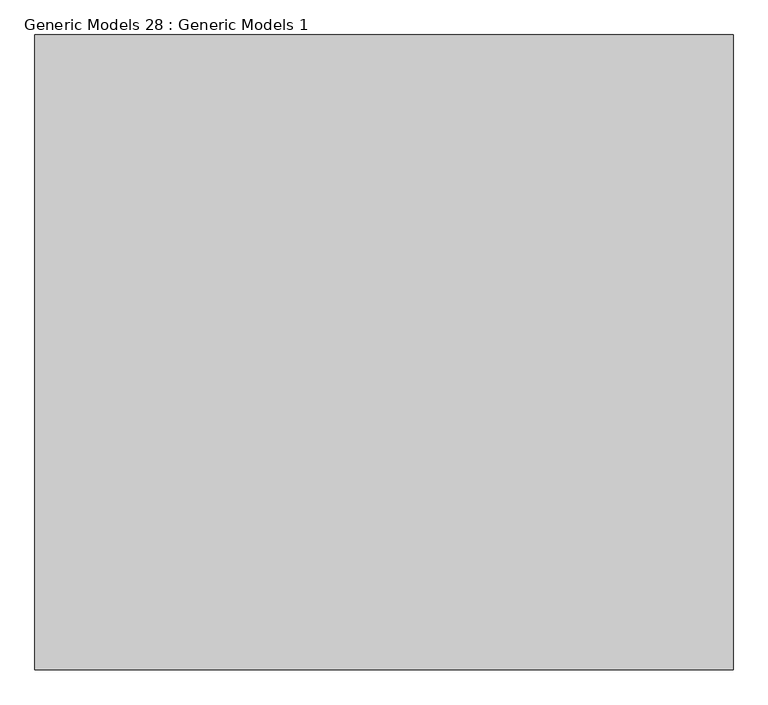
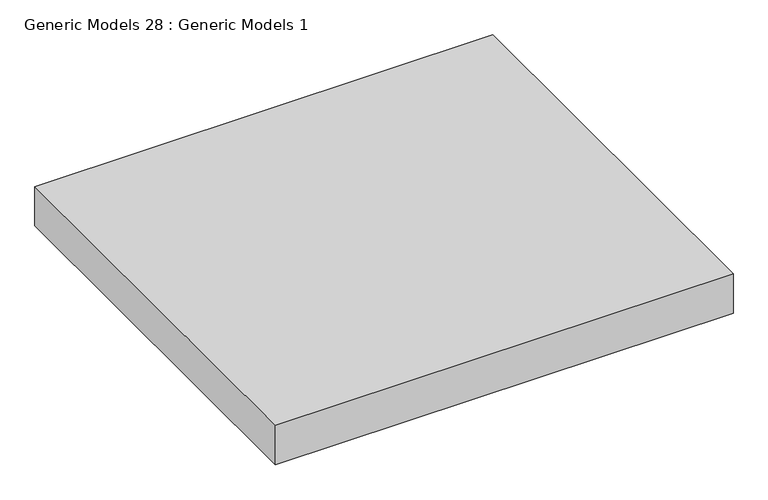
"""IFC4 building model written with IfcOpenShell, lengths in millimetres: proxy geometry, Generic Models 28 : Generic Models 1."""

from ifc_helpers import new_model, si_unit, origin, origin_with_axes, place, context, project, spatial, polyline, outline, extrude, source, transform, mapped, element, save


def generic_models_28_generic_models_1_9fea91cb(model_context):
    return source(origin(), model_context, "Body", "SweptSolid", [
        extrude(outline(polyline([(11444.9769358, -5886.5772826), (11444.9769358, -4886.5772826), (12544.9769358, -4886.5772826), (12544.9769358, -5886.5772826), (11444.9769358, -5886.5772826)])), origin_with_axes(), (0.0, 0.0, 1.0), 100.0),
    ])


if __name__ == "__main__":
    model = new_model("IFC4")
    model_context = context("Model", 3, world=origin())
    ifc_project = project(units=[si_unit("LENGTHUNIT", "METRE", prefix="MILLI")], contexts=[model_context])
    site = spatial("IfcSite", under=ifc_project)
    building = spatial("IfcBuilding", under=site)
    placement = place(None, origin())
    generic_models_28_generic_models_1_shape = generic_models_28_generic_models_1_9fea91cb(model_context)
    element("IfcBuildingElementProxy", 1, Name="Generic Models 28 : Generic Models 1", ObjectType="Generic Models 28 : Generic Models 1", at=placement, inside=building, context=model_context, shape_type="MappedRepresentation", body=[
        mapped(generic_models_28_generic_models_1_shape, transform((0.0, 0.0, 0.0), x_axis=(1.0, 0.0, 0.0), y_axis=(0.0, 1.0, 0.0), z_axis=(0.0, 0.0, 1.0))),
    ])
    save(model, "model.ifc")
